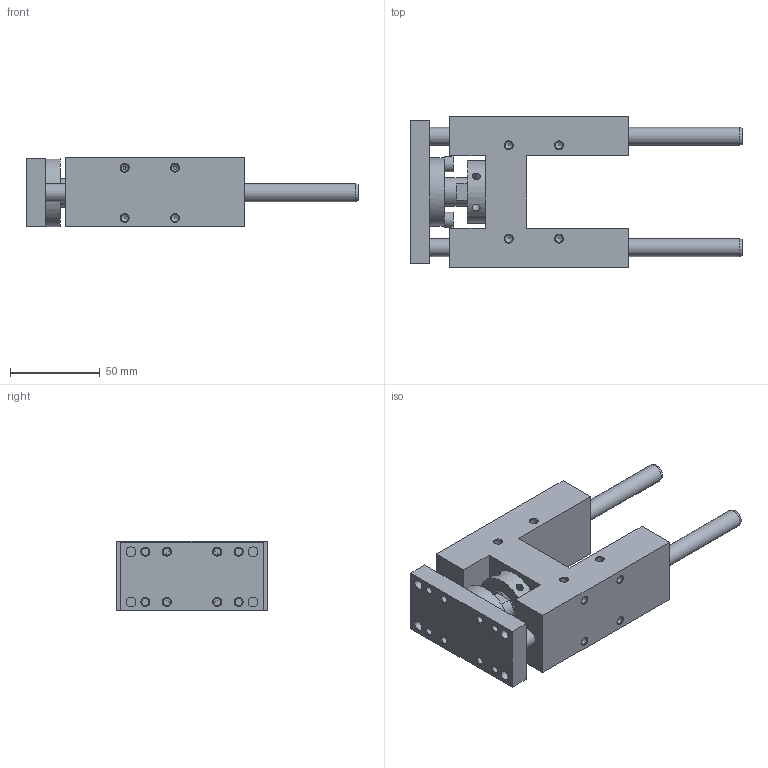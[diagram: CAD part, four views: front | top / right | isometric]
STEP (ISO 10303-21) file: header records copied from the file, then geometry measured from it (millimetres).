
FILE_DESCRIPTION( ( 'STEP AP214' ), '1' );
FILE_NAME( 'U:/Etudes/Top Solid/BIBLIO 3D AVM/TOP/PNEUMATIQUE/GUIDAGES/Type 32 (en H)/_Classique/3221_10.step', '2005-05-27T09:59:52', ( ' ' ), ( ' ' ), 'XStep 1.0', ' ', ' ' );
FILE_SCHEMA( ( 'automotive_design' ) );
Length unit declared in the file: metre
Products named in the file (2): 1; 2
Bounding box: 185 x 84 x 39 mm (x, y, z)
Volume: 254733 mm3; surface area: 67663.8 mm2
Topology: 2 solids, 5 shells, 180 faces, 471 edges, 305 vertices
Faces by surface type: cylinder 69, plane 61, cone 50
Full cylindrical faces by diameter (mm): 4.134 x36, 4.2 x6, 5 x4, 5.5 x6, 6.647 x2, 8.5 x2, 10 x4, 16 x1, 18 x1, 20.376 x2, 22.8 x1, 25 x2, 35 x1, 38 x1
Entity records: 6661 total; most frequent: CARTESIAN_POINT 1518, DIRECTION 784, ORIENTED_EDGE 550, EDGE_LOOP 360, AXIS2_PLACEMENT_3D 345, EDGE_CURVE 275, FACE_OUTER_BOUND 249, VERTEX_POINT 239
